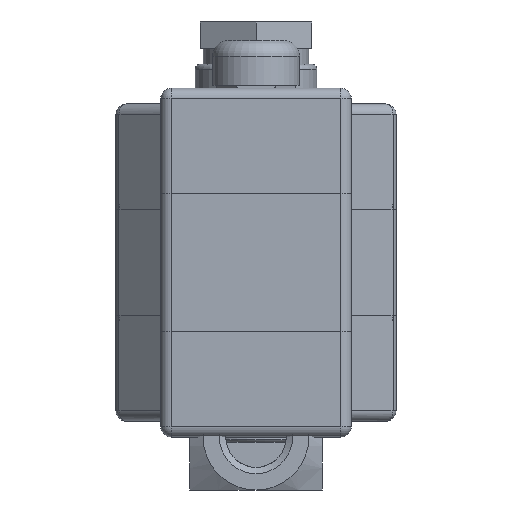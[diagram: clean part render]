
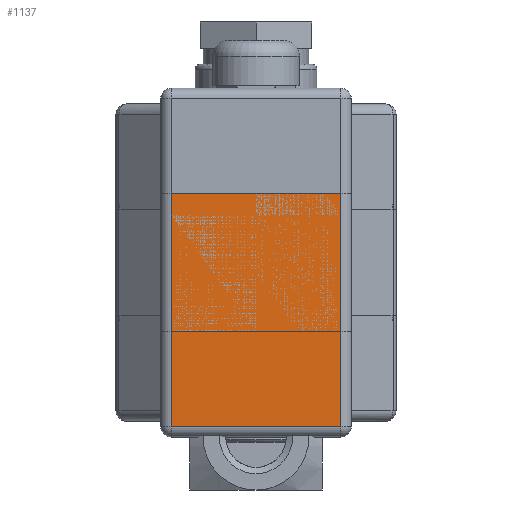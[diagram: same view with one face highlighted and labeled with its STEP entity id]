
A CAD part, front view. The second image highlights one B-rep face of the part: STEP entity #1137.
In plain terms, the highlighted planar face has unit normal (0, -1, 0).
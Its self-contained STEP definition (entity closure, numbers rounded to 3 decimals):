
#1137 = ADVANCED_FACE( '', ( #1788 ), #1789, .F. );
#1788 = FACE_OUTER_BOUND( '', #7001, .T. );
#1789 = PLANE( '', #7002 );
#7001 = EDGE_LOOP( '', ( #8759, #8760, #8761, #8762 ) );
#7002 = AXIS2_PLACEMENT_3D( '', #8763, #8764, #8765 );
#8759 = ORIENTED_EDGE( '', *, *, #9359, .T. );
#8760 = ORIENTED_EDGE( '', *, *, #9333, .T. );
#8761 = ORIENTED_EDGE( '', *, *, #9327, .T. );
#8762 = ORIENTED_EDGE( '', *, *, #9355, .T. );
#8763 = CARTESIAN_POINT( '', ( -18., -26., 48. ) );
#8764 = DIRECTION( '', ( 0., 1., 0. ) );
#8765 = DIRECTION( '', ( -1., 0., 0. ) );
#9327 = EDGE_CURVE( '', #10119, #10133, #10135, .F. );
#9333 = EDGE_CURVE( '', #10139, #10119, #10143, .T. );
#9355 = EDGE_CURVE( '', #10133, #10172, #10174, .F. );
#9359 = EDGE_CURVE( '', #10172, #10139, #10179, .T. );
#10119 = VERTEX_POINT( '', #11646 );
#10133 = VERTEX_POINT( '', #11664 );
#10135 = LINE( '', #11666, #11667 );
#10139 = VERTEX_POINT( '', #11674 );
#10143 = LINE( '', #11679, #11680 );
#10172 = VERTEX_POINT( '', #11719 );
#10174 = LINE( '', #11721, #11722 );
#10179 = LINE( '', #11729, #11730 );
#11646 = CARTESIAN_POINT( '', ( 16., -26., 2. ) );
#11664 = CARTESIAN_POINT( '', ( 16., -26., 46. ) );
#11666 = CARTESIAN_POINT( '', ( 16., -26., 48. ) );
#11667 = VECTOR( '', #12578, 1000. );
#11674 = CARTESIAN_POINT( '', ( -16., -26., 2. ) );
#11679 = CARTESIAN_POINT( '', ( -18., -26., 2. ) );
#11680 = VECTOR( '', #12586, 1000. );
#11719 = CARTESIAN_POINT( '', ( -16., -26., 46. ) );
#11721 = CARTESIAN_POINT( '', ( -18., -26., 46. ) );
#11722 = VECTOR( '', #12630, 1000. );
#11729 = CARTESIAN_POINT( '', ( -16., -26., 48. ) );
#11730 = VECTOR( '', #12636, 1000. );
#12578 = DIRECTION( '', ( 0., 0., -1. ) );
#12586 = DIRECTION( '', ( 1., 0., 0. ) );
#12630 = DIRECTION( '', ( 1., 0., 0. ) );
#12636 = DIRECTION( '', ( 0., 0., -1. ) );
